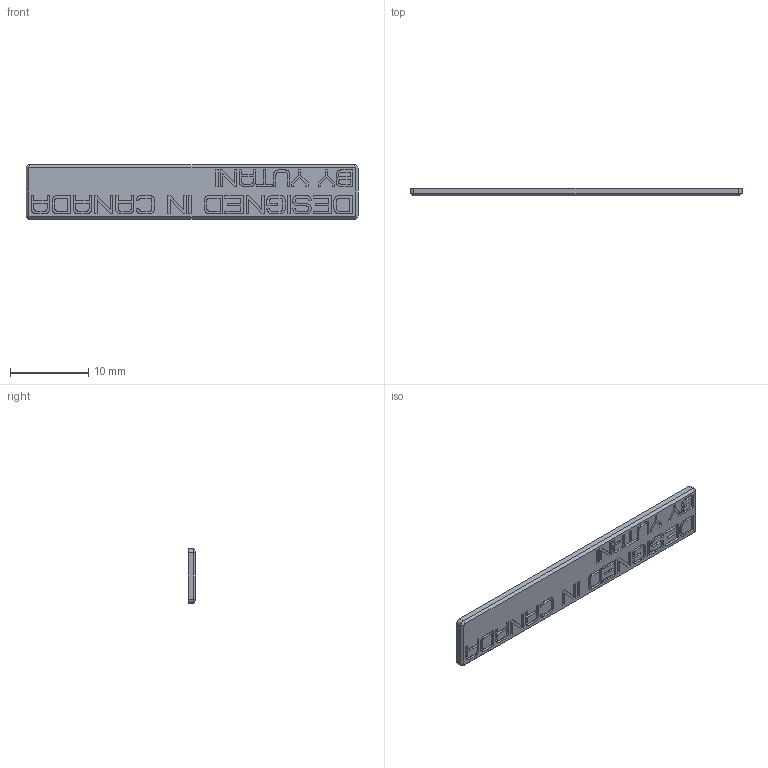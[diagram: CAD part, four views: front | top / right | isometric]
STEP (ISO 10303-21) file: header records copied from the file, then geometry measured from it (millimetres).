
FILE_DESCRIPTION(/* description */ (''),/* implementation_level */ '2;1');
FILE_NAME(/* name */ 'camera_tag.step',/* time_stamp */ '2026-07-06T12:53:09-05:00',/* author */ (''),/* organization */ (''),/* preprocessor_version */ 'ST-DEVELOPER v20.1',/* originating_system */ 'Autodesk Translation Framework v15.8.0.0',/* authorisation */ '');
FILE_SCHEMA (('AUTOMOTIVE_DESIGN { 1 0 10303 214 3 1 1 }'));
Length unit declared in the file: millimetre
Products named in the file (1): SaturnixLite_Hull
Bounding box: 42.5 x 1 x 7 mm (x, y, z)
Volume: 277.9 mm3; surface area: 768.6 mm2
Topology: 1 solids, 1 shells, 346 faces, 925 edges, 614 vertices
Faces by surface type: plane 270, bspline 68, cone 4, cylinder 4
Entity records: 10790 total; most frequent: CARTESIAN_POINT 2770, ORIENTED_EDGE 1850, DIRECTION 1359, EDGE_CURVE 925, LINE 777, VECTOR 777, VERTEX_POINT 614, EDGE_LOOP 379
